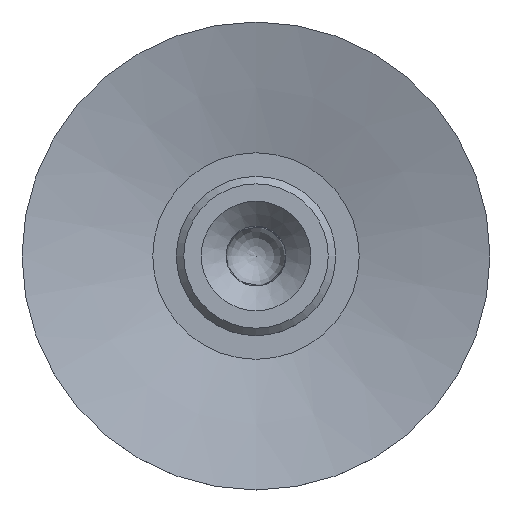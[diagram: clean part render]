
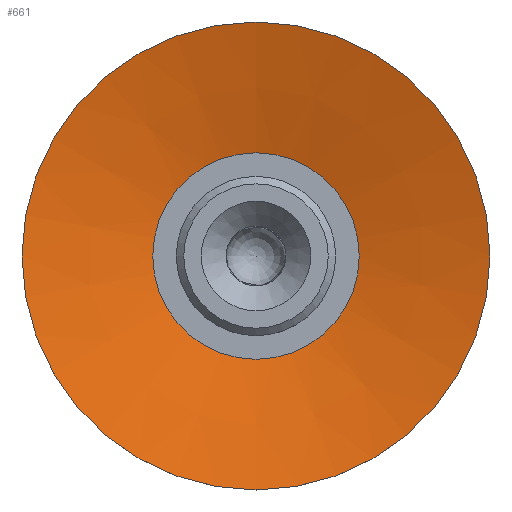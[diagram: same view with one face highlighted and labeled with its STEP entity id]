
A CAD part, top view. The second image highlights one B-rep face of the part: STEP entity #661.
In plain terms, the highlighted conical face has half-angle 75 degrees and reference radius 47 mm.
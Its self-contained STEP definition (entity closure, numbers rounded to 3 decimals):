
#661=ADVANCED_FACE('',(#1438,#1439),#1440,.F.);
#1438=FACE_BOUND('',#2885,.T.);
#1439=FACE_OUTER_BOUND('',#2886,.T.);
#1440=CONICAL_SURFACE('',#2887,47.,1.309);
#2885=EDGE_LOOP('',(#4530));
#2886=EDGE_LOOP('',(#4531));
#2887=AXIS2_PLACEMENT_3D('',#4532,#4533,#4534);
#4530=ORIENTED_EDGE('',*,*,#5091,.T.);
#4531=ORIENTED_EDGE('',*,*,#5089,.F.);
#4532=CARTESIAN_POINT('',(0.0,0.0,3.437));
#4533=DIRECTION('',(-0.0,0.,1.0));
#4534=DIRECTION('',(0.0,-1.0,0.));
#5089=EDGE_CURVE('',#5880,#5880,#5881,.T.);
#5091=EDGE_CURVE('',#5883,#5883,#5884,.T.);
#5880=VERTEX_POINT('',#7038);
#5881=CIRCLE('',#7039,47.);
#5883=VERTEX_POINT('',#7041);
#5884=CIRCLE('',#7042,20.737);
#7038=CARTESIAN_POINT('',(0.0,47.,3.437));
#7039=AXIS2_PLACEMENT_3D('',#7669,#7670,#7671);
#7041=CARTESIAN_POINT('',(0.0,20.737,-3.6));
#7042=AXIS2_PLACEMENT_3D('',#7672,#7673,#7674);
#7669=CARTESIAN_POINT('',(0.0,0.0,3.437));
#7670=DIRECTION('',(-0.0,0.,-1.0));
#7671=DIRECTION('',(0.0,1.0,0.));
#7672=CARTESIAN_POINT('',(0.0,0.0,-3.6));
#7673=DIRECTION('',(-0.0,0.,-1.0));
#7674=DIRECTION('',(0.0,1.0,0.));
